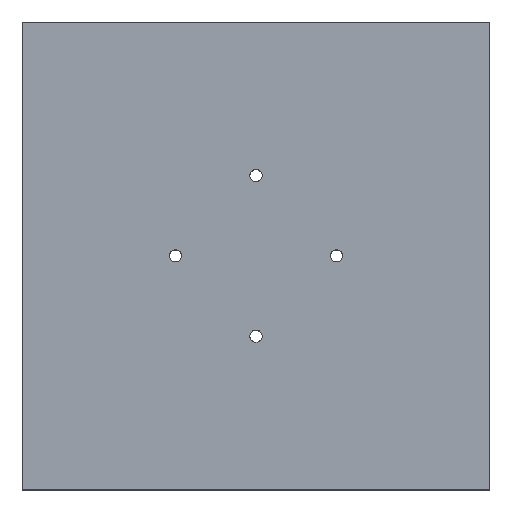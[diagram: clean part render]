
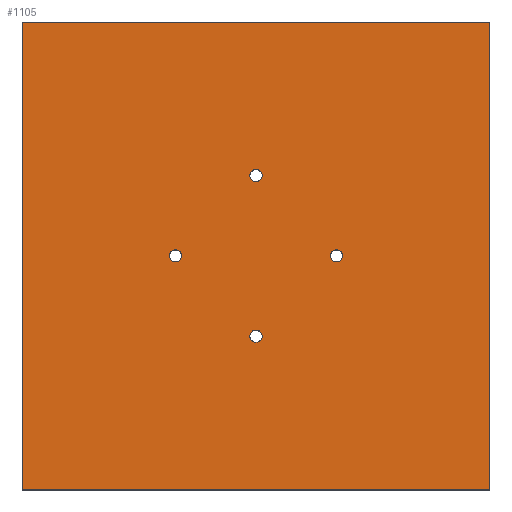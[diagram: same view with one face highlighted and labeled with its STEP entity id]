
A CAD part, top view. The second image highlights one B-rep face of the part: STEP entity #1105.
In plain terms, the highlighted planar face has unit normal (0, 0, 1).
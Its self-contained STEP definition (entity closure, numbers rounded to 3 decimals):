
#2 = EDGE_CURVE ( 'NONE', #2020, #1584, #202, .T. ) ;
#57 = EDGE_LOOP ( 'NONE', ( #840, #2139 ) ) ;
#64 = CARTESIAN_POINT ( 'NONE',  ( 25., 38.1, 17.5 ) ) ;
#81 = CIRCLE ( 'NONE', #1114, 1. ) ;
#93 = DIRECTION ( 'NONE',  ( 0., -1., 0. ) ) ;
#121 = CIRCLE ( 'NONE', #1741, 1. ) ;
#202 = CIRCLE ( 'NONE', #640, 1. ) ;
#230 = DIRECTION ( 'NONE',  ( -1., 0., 0. ) ) ;
#235 = ORIENTED_EDGE ( 'NONE', *, *, #575, .F. ) ;
#251 = ORIENTED_EDGE ( 'NONE', *, *, #1265, .F. ) ;
#265 = CARTESIAN_POINT ( 'NONE',  ( 25., 38.1, 17.5 ) ) ;
#271 = CARTESIAN_POINT ( 'NONE',  ( 0., 0., 17.5 ) ) ;
#273 = VERTEX_POINT ( 'NONE', #735 ) ;
#306 = CARTESIAN_POINT ( 'NONE',  ( 24., 38.1, 17.5 ) ) ;
#313 = ORIENTED_EDGE ( 'NONE', *, *, #1346, .T. ) ;
#368 = CARTESIAN_POINT ( 'NONE',  ( 52.2, 38.1, 17.5 ) ) ;
#373 = CARTESIAN_POINT ( 'NONE',  ( 38.1, 25., 17.5 ) ) ;
#388 = CARTESIAN_POINT ( 'NONE',  ( 0., 76.2, 17.5 ) ) ;
#399 = CIRCLE ( 'NONE', #1438, 1. ) ;
#416 = DIRECTION ( 'NONE',  ( 0., 0., 1. ) ) ;
#423 = AXIS2_PLACEMENT_3D ( 'NONE', #688, #2266, #1756 ) ;
#439 = AXIS2_PLACEMENT_3D ( 'NONE', #1587, #1447, #702 ) ;
#451 = VECTOR ( 'NONE', #1155, 1000. ) ;
#461 = DIRECTION ( 'NONE',  ( 1., 0., 0. ) ) ;
#521 = CARTESIAN_POINT ( 'NONE',  ( 76.2, 0., 17.5 ) ) ;
#534 = EDGE_CURVE ( 'NONE', #850, #1748, #2261, .T. ) ;
#558 = DIRECTION ( 'NONE',  ( 0., 0., 1. ) ) ;
#571 = DIRECTION ( 'NONE',  ( 1., 0., 0. ) ) ;
#575 = EDGE_CURVE ( 'NONE', #273, #1825, #715, .T. ) ;
#576 = ORIENTED_EDGE ( 'NONE', *, *, #1228, .F. ) ;
#590 = CARTESIAN_POINT ( 'NONE',  ( 0., 0., 17.5 ) ) ;
#596 = CARTESIAN_POINT ( 'NONE',  ( 38.1, 51.2, 17.5 ) ) ;
#634 = VERTEX_POINT ( 'NONE', #1271 ) ;
#640 = AXIS2_PLACEMENT_3D ( 'NONE', #596, #1470, #2161 ) ;
#660 = VERTEX_POINT ( 'NONE', #2272 ) ;
#688 = CARTESIAN_POINT ( 'NONE',  ( 51.2, 38.1, 17.5 ) ) ;
#702 = DIRECTION ( 'NONE',  ( -1., 0., 0. ) ) ;
#713 = FACE_BOUND ( 'NONE', #1883, .T. ) ;
#715 = CIRCLE ( 'NONE', #2004, 1. ) ;
#735 = CARTESIAN_POINT ( 'NONE',  ( 39.1, 25., 17.5 ) ) ;
#756 = EDGE_CURVE ( 'NONE', #660, #1632, #1152, .T. ) ;
#805 = DIRECTION ( 'NONE',  ( 1., 0., 0. ) ) ;
#817 = VERTEX_POINT ( 'NONE', #1873 ) ;
#826 = VERTEX_POINT ( 'NONE', #1362 ) ;
#840 = ORIENTED_EDGE ( 'NONE', *, *, #1443, .F. ) ;
#848 = VECTOR ( 'NONE', #93, 1000. ) ;
#850 = VERTEX_POINT ( 'NONE', #1005 ) ;
#877 = EDGE_LOOP ( 'NONE', ( #1976, #1802, #313, #2011 ) ) ;
#880 = PLANE ( 'NONE',  #439 ) ;
#897 = DIRECTION ( 'NONE',  ( 1., 0., 0. ) ) ;
#908 = FACE_OUTER_BOUND ( 'NONE', #877, .T. ) ;
#955 = ORIENTED_EDGE ( 'NONE', *, *, #1980, .F. ) ;
#1005 = CARTESIAN_POINT ( 'NONE',  ( 50.2, 38.1, 17.5 ) ) ;
#1055 = AXIS2_PLACEMENT_3D ( 'NONE', #1891, #1165, #1545 ) ;
#1061 = DIRECTION ( 'NONE',  ( 1., 0., 0. ) ) ;
#1105 = ADVANCED_FACE ( 'NONE', ( #908, #1965, #1928, #713, #1252 ), #880, .F. ) ;
#1114 = AXIS2_PLACEMENT_3D ( 'NONE', #1595, #1245, #897 ) ;
#1120 = LINE ( 'NONE', #388, #1912 ) ;
#1124 = LINE ( 'NONE', #271, #848 ) ;
#1144 = AXIS2_PLACEMENT_3D ( 'NONE', #265, #1315, #461 ) ;
#1145 = LINE ( 'NONE', #1480, #451 ) ;
#1152 = LINE ( 'NONE', #590, #1788 ) ;
#1155 = DIRECTION ( 'NONE',  ( 0., 1., 0. ) ) ;
#1165 = DIRECTION ( 'NONE',  ( 0., 0., 1. ) ) ;
#1228 = EDGE_CURVE ( 'NONE', #1748, #850, #81, .T. ) ;
#1245 = DIRECTION ( 'NONE',  ( 0., 0., 1. ) ) ;
#1252 = FACE_BOUND ( 'NONE', #1465, .T. ) ;
#1265 = EDGE_CURVE ( 'NONE', #1459, #634, #121, .T. ) ;
#1271 = CARTESIAN_POINT ( 'NONE',  ( 26., 38.1, 17.5 ) ) ;
#1315 = DIRECTION ( 'NONE',  ( 0., 0., 1. ) ) ;
#1346 = EDGE_CURVE ( 'NONE', #1632, #826, #1145, .T. ) ;
#1362 = CARTESIAN_POINT ( 'NONE',  ( 76.2, 76.2, 17.5 ) ) ;
#1438 = AXIS2_PLACEMENT_3D ( 'NONE', #2014, #1503, #805 ) ;
#1443 = EDGE_CURVE ( 'NONE', #1584, #2020, #2075, .T. ) ;
#1447 = DIRECTION ( 'NONE',  ( 0., 0., -1. ) ) ;
#1451 = ORIENTED_EDGE ( 'NONE', *, *, #1977, .F. ) ;
#1459 = VERTEX_POINT ( 'NONE', #306 ) ;
#1465 = EDGE_LOOP ( 'NONE', ( #955, #235 ) ) ;
#1470 = DIRECTION ( 'NONE',  ( 0., 0., 1. ) ) ;
#1480 = CARTESIAN_POINT ( 'NONE',  ( 76.2, 0., 17.5 ) ) ;
#1503 = DIRECTION ( 'NONE',  ( 0., 0., 1. ) ) ;
#1545 = DIRECTION ( 'NONE',  ( 1., 0., 0. ) ) ;
#1584 = VERTEX_POINT ( 'NONE', #1893 ) ;
#1587 = CARTESIAN_POINT ( 'NONE',  ( 0., 0., 17.5 ) ) ;
#1595 = CARTESIAN_POINT ( 'NONE',  ( 51.2, 38.1, 17.5 ) ) ;
#1612 = EDGE_LOOP ( 'NONE', ( #251, #1451 ) ) ;
#1632 = VERTEX_POINT ( 'NONE', #521 ) ;
#1685 = CARTESIAN_POINT ( 'NONE',  ( 39.1, 51.2, 17.5 ) ) ;
#1741 = AXIS2_PLACEMENT_3D ( 'NONE', #64, #416, #571 ) ;
#1748 = VERTEX_POINT ( 'NONE', #368 ) ;
#1756 = DIRECTION ( 'NONE',  ( 1., 0., 0. ) ) ;
#1761 = EDGE_CURVE ( 'NONE', #826, #817, #1120, .T. ) ;
#1788 = VECTOR ( 'NONE', #1853, 1000. ) ;
#1802 = ORIENTED_EDGE ( 'NONE', *, *, #756, .T. ) ;
#1825 = VERTEX_POINT ( 'NONE', #1996 ) ;
#1853 = DIRECTION ( 'NONE',  ( 1., 0., 0. ) ) ;
#1873 = CARTESIAN_POINT ( 'NONE',  ( 0., 76.2, 17.5 ) ) ;
#1883 = EDGE_LOOP ( 'NONE', ( #2121, #576 ) ) ;
#1891 = CARTESIAN_POINT ( 'NONE',  ( 38.1, 51.2, 17.5 ) ) ;
#1893 = CARTESIAN_POINT ( 'NONE',  ( 37.1, 51.2, 17.5 ) ) ;
#1912 = VECTOR ( 'NONE', #230, 1000. ) ;
#1917 = EDGE_CURVE ( 'NONE', #817, #660, #1124, .T. ) ;
#1928 = FACE_BOUND ( 'NONE', #1612, .T. ) ;
#1965 = FACE_BOUND ( 'NONE', #57, .T. ) ;
#1976 = ORIENTED_EDGE ( 'NONE', *, *, #1917, .T. ) ;
#1977 = EDGE_CURVE ( 'NONE', #634, #1459, #2125, .T. ) ;
#1980 = EDGE_CURVE ( 'NONE', #1825, #273, #399, .T. ) ;
#1996 = CARTESIAN_POINT ( 'NONE',  ( 37.1, 25., 17.5 ) ) ;
#2004 = AXIS2_PLACEMENT_3D ( 'NONE', #373, #558, #1061 ) ;
#2011 = ORIENTED_EDGE ( 'NONE', *, *, #1761, .T. ) ;
#2014 = CARTESIAN_POINT ( 'NONE',  ( 38.1, 25., 17.5 ) ) ;
#2020 = VERTEX_POINT ( 'NONE', #1685 ) ;
#2075 = CIRCLE ( 'NONE', #1055, 1. ) ;
#2121 = ORIENTED_EDGE ( 'NONE', *, *, #534, .F. ) ;
#2125 = CIRCLE ( 'NONE', #1144, 1. ) ;
#2139 = ORIENTED_EDGE ( 'NONE', *, *, #2, .F. ) ;
#2161 = DIRECTION ( 'NONE',  ( 1., 0., 0. ) ) ;
#2261 = CIRCLE ( 'NONE', #423, 1. ) ;
#2266 = DIRECTION ( 'NONE',  ( 0., 0., 1. ) ) ;
#2272 = CARTESIAN_POINT ( 'NONE',  ( 0., 0., 17.5 ) ) ;
